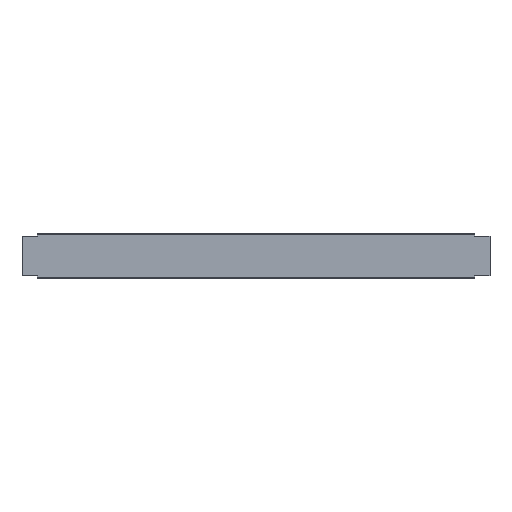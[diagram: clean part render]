
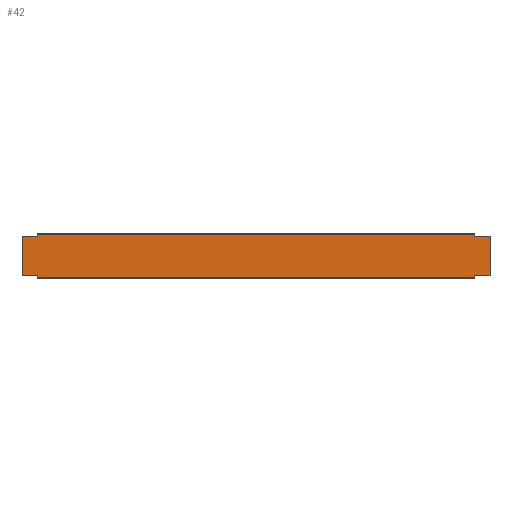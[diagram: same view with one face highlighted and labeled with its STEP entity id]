
A CAD part, front view. The second image highlights one B-rep face of the part: STEP entity #42.
In plain terms, the highlighted planar face has unit normal (0, -1, 0).
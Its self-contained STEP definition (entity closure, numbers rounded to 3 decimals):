
#42 = ADVANCED_FACE( '', ( #95 ), #96, .F. );
#95 = FACE_OUTER_BOUND( '', #156, .T. );
#96 = PLANE( '', #157 );
#156 = EDGE_LOOP( '', ( #211, #212, #213, #214, #215, #216, #217, #218, #219, #220, #221, #222 ) );
#157 = AXIS2_PLACEMENT_3D( '', #223, #224, #225 );
#211 = ORIENTED_EDGE( '', *, *, #379, .F. );
#212 = ORIENTED_EDGE( '', *, *, #380, .T. );
#213 = ORIENTED_EDGE( '', *, *, #381, .F. );
#214 = ORIENTED_EDGE( '', *, *, #382, .F. );
#215 = ORIENTED_EDGE( '', *, *, #383, .F. );
#216 = ORIENTED_EDGE( '', *, *, #384, .F. );
#217 = ORIENTED_EDGE( '', *, *, #385, .F. );
#218 = ORIENTED_EDGE( '', *, *, #386, .F. );
#219 = ORIENTED_EDGE( '', *, *, #387, .T. );
#220 = ORIENTED_EDGE( '', *, *, #388, .T. );
#221 = ORIENTED_EDGE( '', *, *, #389, .F. );
#222 = ORIENTED_EDGE( '', *, *, #390, .F. );
#223 = CARTESIAN_POINT( '', ( 353.5, 0., 34. ) );
#224 = DIRECTION( '', ( 0., 1., 0. ) );
#225 = DIRECTION( '', ( 0., 0., 1. ) );
#379 = EDGE_CURVE( '', #445, #446, #447, .T. );
#380 = EDGE_CURVE( '', #445, #448, #449, .T. );
#381 = EDGE_CURVE( '', #450, #448, #451, .T. );
#382 = EDGE_CURVE( '', #452, #450, #453, .T. );
#383 = EDGE_CURVE( '', #454, #452, #455, .T. );
#384 = EDGE_CURVE( '', #456, #454, #457, .T. );
#385 = EDGE_CURVE( '', #458, #456, #459, .T. );
#386 = EDGE_CURVE( '', #460, #458, #461, .T. );
#387 = EDGE_CURVE( '', #460, #462, #463, .T. );
#388 = EDGE_CURVE( '', #462, #464, #465, .T. );
#389 = EDGE_CURVE( '', #466, #464, #467, .T. );
#390 = EDGE_CURVE( '', #446, #466, #468, .T. );
#445 = VERTEX_POINT( '', #543 );
#446 = VERTEX_POINT( '', #544 );
#447 = LINE( '', #545, #546 );
#448 = VERTEX_POINT( '', #547 );
#449 = LINE( '', #548, #549 );
#450 = VERTEX_POINT( '', #550 );
#451 = LINE( '', #551, #552 );
#452 = VERTEX_POINT( '', #553 );
#453 = LINE( '', #554, #555 );
#454 = VERTEX_POINT( '', #556 );
#455 = LINE( '', #557, #558 );
#456 = VERTEX_POINT( '', #559 );
#457 = LINE( '', #560, #561 );
#458 = VERTEX_POINT( '', #562 );
#459 = LINE( '', #563, #564 );
#460 = VERTEX_POINT( '', #565 );
#461 = LINE( '', #566, #567 );
#462 = VERTEX_POINT( '', #568 );
#463 = LINE( '', #569, #570 );
#464 = VERTEX_POINT( '', #571 );
#465 = LINE( '', #572, #573 );
#466 = VERTEX_POINT( '', #574 );
#467 = LINE( '', #575, #576 );
#468 = LINE( '', #577, #578 );
#543 = CARTESIAN_POINT( '', ( -353.5, 0., -32. ) );
#544 = CARTESIAN_POINT( '', ( -378.5, 0., -32. ) );
#545 = CARTESIAN_POINT( '', ( 378.5, 0., -32. ) );
#546 = VECTOR( '', #688, 1000. );
#547 = CARTESIAN_POINT( '', ( -353.5, 0., -34. ) );
#548 = CARTESIAN_POINT( '', ( -353.5, 0., 34. ) );
#549 = VECTOR( '', #689, 1000. );
#550 = CARTESIAN_POINT( '', ( 353.5, 0., -34. ) );
#551 = CARTESIAN_POINT( '', ( 353.5, 0., -34. ) );
#552 = VECTOR( '', #690, 1000. );
#553 = CARTESIAN_POINT( '', ( 353.5, 0., -32. ) );
#554 = CARTESIAN_POINT( '', ( 353.5, 0., 34. ) );
#555 = VECTOR( '', #691, 1000. );
#556 = CARTESIAN_POINT( '', ( 378.5, 0., -32. ) );
#557 = CARTESIAN_POINT( '', ( 378.5, 0., -32. ) );
#558 = VECTOR( '', #692, 1000. );
#559 = CARTESIAN_POINT( '', ( 378.5, 0., 32. ) );
#560 = CARTESIAN_POINT( '', ( 378.5, 0., 32. ) );
#561 = VECTOR( '', #693, 1000. );
#562 = CARTESIAN_POINT( '', ( 353.5, 0., 32. ) );
#563 = CARTESIAN_POINT( '', ( -378.5, 0., 32. ) );
#564 = VECTOR( '', #694, 1000. );
#565 = CARTESIAN_POINT( '', ( 353.5, 0., 34. ) );
#566 = CARTESIAN_POINT( '', ( 353.5, 0., 34. ) );
#567 = VECTOR( '', #695, 1000. );
#568 = CARTESIAN_POINT( '', ( -353.5, 0., 34. ) );
#569 = CARTESIAN_POINT( '', ( 353.5, 0., 34. ) );
#570 = VECTOR( '', #696, 1000. );
#571 = CARTESIAN_POINT( '', ( -353.5, 0., 32. ) );
#572 = CARTESIAN_POINT( '', ( -353.5, 0., 34. ) );
#573 = VECTOR( '', #697, 1000. );
#574 = CARTESIAN_POINT( '', ( -378.5, 0., 32. ) );
#575 = CARTESIAN_POINT( '', ( -378.5, 0., 32. ) );
#576 = VECTOR( '', #698, 1000. );
#577 = CARTESIAN_POINT( '', ( -378.5, 0., -32. ) );
#578 = VECTOR( '', #699, 1000. );
#688 = DIRECTION( '', ( -1., 0., 0. ) );
#689 = DIRECTION( '', ( 0., 0., -1. ) );
#690 = DIRECTION( '', ( -1., 0., 0. ) );
#691 = DIRECTION( '', ( 0., 0., -1. ) );
#692 = DIRECTION( '', ( -1., 0., 0. ) );
#693 = DIRECTION( '', ( 0., 0., -1. ) );
#694 = DIRECTION( '', ( 1., 0., 0. ) );
#695 = DIRECTION( '', ( 0., 0., -1. ) );
#696 = DIRECTION( '', ( -1., 0., 0. ) );
#697 = DIRECTION( '', ( 0., 0., -1. ) );
#698 = DIRECTION( '', ( 1., 0., 0. ) );
#699 = DIRECTION( '', ( 0., 0., 1. ) );
